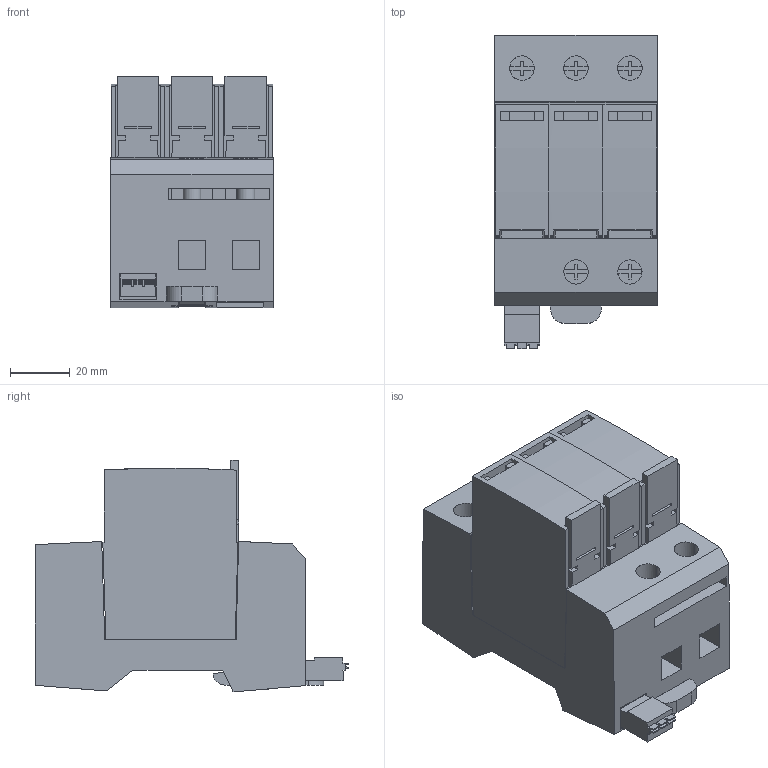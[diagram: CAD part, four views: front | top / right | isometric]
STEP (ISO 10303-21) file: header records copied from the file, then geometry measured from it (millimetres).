
FILE_DESCRIPTION((''),'2;1');
FILE_NAME('1695130547760_ASM','2023-09-19T19:05:48',('SESA730405'),('Schneider-Electric'),'CREO PARAMETRIC BY PTC INC, 2021284','CREO PARAMETRIC BY PTC INC, 2021284','');
FILE_SCHEMA(('AP242_MANAGED_MODEL_BASED_3D_ENGINEERING_MIM_LF { 1 0 10303 442 1 1 4 }'));
Length unit declared in the file: millimetre
Products named in the file (7): EMPTYNODE_1695130547823_ASM; PKR4442200-3D; MOUNTING_CLIP_2-3D; PKR4442200-3D_ASM; PKR4975300-3D; PKR4975300-3D_ASM; 1695130547760_ASM
Assembly tree (8 placements, depth 3):
  1695130547760_ASM
    EMPTYNODE_1695130547823_ASM
    PKR4442200-3D_ASM
      PKR4442200-3D
      MOUNTING_CLIP_2-3D
    PKR4975300-3D_ASM  x3
      PKR4975300-3D
Bounding box: 54.28 x 104.73 x 77.35 mm (x, y, z)
Volume: 250490.4 mm3; surface area: 73829.3 mm2
Topology: 5 solids, 5 shells, 842 faces, 2272 edges, 1488 vertices
Faces by surface type: plane 780, cylinder 56, extrusion 6
Entity records: 23039 total; most frequent: CARTESIAN_POINT 2987, ORIENTED_EDGE 2776, DIRECTION 2526, PRESENTATION_STYLE_ASSIGNMENT 1600, STYLED_ITEM 1391, CURVE_STYLE 1388, EDGE_CURVE 1388, VECTOR 1274
